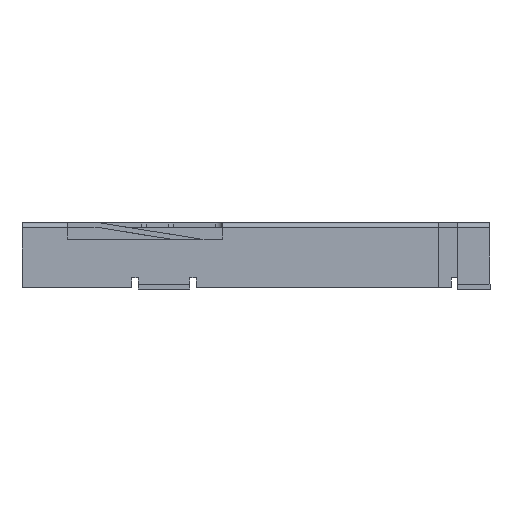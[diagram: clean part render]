
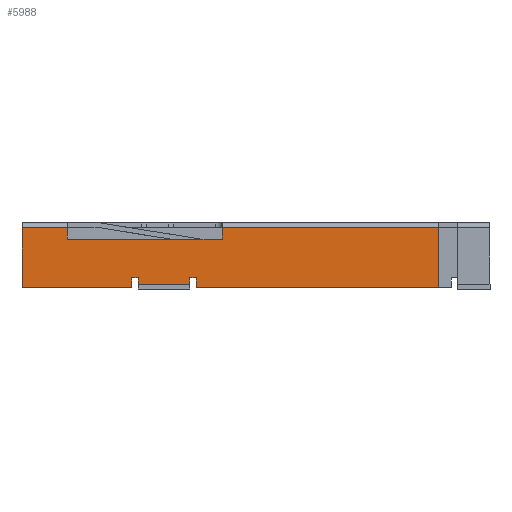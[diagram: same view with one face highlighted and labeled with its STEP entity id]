
A CAD part, left-side view. The second image highlights one B-rep face of the part: STEP entity #5988.
In plain terms, the highlighted planar face has unit normal (-1, 0, 0).
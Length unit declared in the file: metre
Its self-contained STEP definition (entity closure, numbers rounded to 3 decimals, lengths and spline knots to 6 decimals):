
#498=LINE('',#12149,#1098);
#501=LINE('',#12155,#1101);
#537=LINE('',#12282,#1137);
#542=LINE('',#12292,#1142);
#544=LINE('',#12297,#1144);
#548=LINE('',#12306,#1148);
#557=LINE('',#12322,#1157);
#561=LINE('',#12329,#1161);
#562=LINE('',#12331,#1162);
#626=LINE('',#12465,#1226);
#631=LINE('',#12481,#1231);
#650=LINE('',#12514,#1250);
#655=LINE('',#12525,#1255);
#656=LINE('',#12527,#1256);
#657=LINE('',#12528,#1257);
#658=LINE('',#12529,#1258);
#1098=VECTOR('',#8743,1.);
#1101=VECTOR('',#8748,1.);
#1137=VECTOR('',#8860,1.);
#1142=VECTOR('',#8867,1.);
#1144=VECTOR('',#8871,1.);
#1148=VECTOR('',#8877,1.);
#1157=VECTOR('',#8892,1.);
#1161=VECTOR('',#8898,1.);
#1162=VECTOR('',#8901,1.);
#1226=VECTOR('',#9013,1.);
#1231=VECTOR('',#9024,1.);
#1250=VECTOR('',#9053,1.);
#1255=VECTOR('',#9068,1.);
#1256=VECTOR('',#9069,1.);
#1257=VECTOR('',#9070,1.);
#1258=VECTOR('',#9071,1.);
#2783=ORIENTED_EDGE('',*,*,#3647,.F.);
#2784=ORIENTED_EDGE('',*,*,#3832,.T.);
#2785=ORIENTED_EDGE('',*,*,#3833,.T.);
#2786=ORIENTED_EDGE('',*,*,#3826,.T.);
#2787=ORIENTED_EDGE('',*,*,#3834,.F.);
#2788=ORIENTED_EDGE('',*,*,#3714,.T.);
#2789=ORIENTED_EDGE('',*,*,#3709,.T.);
#2790=ORIENTED_EDGE('',*,*,#3733,.T.);
#2791=ORIENTED_EDGE('',*,*,#3734,.T.);
#2792=ORIENTED_EDGE('',*,*,#3729,.T.);
#2793=ORIENTED_EDGE('',*,*,#3716,.T.);
#2794=ORIENTED_EDGE('',*,*,#3720,.T.);
#2795=ORIENTED_EDGE('',*,*,#3835,.F.);
#2796=ORIENTED_EDGE('',*,*,#3807,.T.);
#2797=ORIENTED_EDGE('',*,*,#3800,.T.);
#2798=ORIENTED_EDGE('',*,*,#3650,.F.);
#3647=EDGE_CURVE('',#4264,#4265,#498,.T.);
#3650=EDGE_CURVE('',#4265,#4267,#501,.T.);
#3709=EDGE_CURVE('',#4316,#4315,#537,.T.);
#3714=EDGE_CURVE('',#4318,#4316,#542,.T.);
#3716=EDGE_CURVE('',#4322,#4321,#544,.T.);
#3720=EDGE_CURVE('',#4321,#4325,#548,.T.);
#3729=EDGE_CURVE('',#4330,#4322,#557,.T.);
#3733=EDGE_CURVE('',#4315,#4331,#561,.T.);
#3734=EDGE_CURVE('',#4331,#4330,#562,.T.);
#3800=EDGE_CURVE('',#4374,#4267,#626,.T.);
#3807=EDGE_CURVE('',#4378,#4374,#631,.T.);
#3826=EDGE_CURVE('',#4387,#4386,#650,.T.);
#3832=EDGE_CURVE('',#4264,#4388,#655,.T.);
#3833=EDGE_CURVE('',#4388,#4387,#656,.T.);
#3834=EDGE_CURVE('',#4318,#4386,#657,.T.);
#3835=EDGE_CURVE('',#4378,#4325,#658,.T.);
#4264=VERTEX_POINT('',#12148);
#4265=VERTEX_POINT('',#12150);
#4267=VERTEX_POINT('',#12156);
#4315=VERTEX_POINT('',#12281);
#4316=VERTEX_POINT('',#12283);
#4318=VERTEX_POINT('',#12289);
#4321=VERTEX_POINT('',#12296);
#4322=VERTEX_POINT('',#12298);
#4325=VERTEX_POINT('',#12305);
#4330=VERTEX_POINT('',#12323);
#4331=VERTEX_POINT('',#12328);
#4374=VERTEX_POINT('',#12466);
#4378=VERTEX_POINT('',#12482);
#4386=VERTEX_POINT('',#12513);
#4387=VERTEX_POINT('',#12515);
#4388=VERTEX_POINT('',#12526);
#4882=EDGE_LOOP('',(#2783,#2784,#2785,#2786,#2787,#2788,#2789,#2790,#2791,
#2792,#2793,#2794,#2795,#2796,#2797,#2798));
#5197=FACE_BOUND('',#4882,.T.);
#5396=PLANE('',#8010);
#5988=ADVANCED_FACE('',(#5197),#5396,.F.);
#8010=AXIS2_PLACEMENT_3D('',#12524,#9066,#9067);
#8743=DIRECTION('',(0.,-1.,0.));
#8748=DIRECTION('',(0.,0.,1.));
#8860=DIRECTION('',(0.,-1.,0.));
#8867=DIRECTION('',(0.,0.,1.));
#8871=DIRECTION('',(0.,-1.,0.));
#8877=DIRECTION('',(0.,0.,-1.));
#8892=DIRECTION('',(0.,0.,1.));
#8898=DIRECTION('',(0.,0.,-1.));
#8901=DIRECTION('',(0.,-1.,0.));
#9013=DIRECTION('',(0.,1.,0.));
#9024=DIRECTION('',(0.,0.,1.));
#9053=DIRECTION('',(0.,0.,-1.));
#9066=DIRECTION('',(1.,0.,0.));
#9067=DIRECTION('',(0.,0.,1.));
#9068=DIRECTION('',(0.,0.,1.));
#9069=DIRECTION('',(0.,1.,0.));
#9070=DIRECTION('',(0.,1.,0.));
#9071=DIRECTION('',(0.,1.,0.));
#12148=CARTESIAN_POINT('',(-0.100608,-0.003618,0.01105));
#12149=CARTESIAN_POINT('',(-0.100608,-0.008418,0.01105));
#12150=CARTESIAN_POINT('',(-0.100608,-0.008418,0.01105));
#12155=CARTESIAN_POINT('',(-0.100608,-0.008418,0.01105));
#12156=CARTESIAN_POINT('',(-0.100608,-0.008418,0.011401));
#12281=CARTESIAN_POINT('',(-0.100608,-0.005818,0.00985));
#12282=CARTESIAN_POINT('',(-0.100608,-0.005818,0.00985));
#12283=CARTESIAN_POINT('',(-0.100608,-0.005618,0.00985));
#12289=CARTESIAN_POINT('',(-0.100608,-0.005618,0.00955));
#12292=CARTESIAN_POINT('',(-0.100608,-0.005618,0.0095));
#12296=CARTESIAN_POINT('',(-0.100608,-0.007618,0.00985));
#12297=CARTESIAN_POINT('',(-0.100608,-0.007418,0.00985));
#12298=CARTESIAN_POINT('',(-0.100608,-0.007418,0.00985));
#12305=CARTESIAN_POINT('',(-0.100608,-0.007618,0.00955));
#12306=CARTESIAN_POINT('',(-0.100608,-0.007618,0.0095));
#12322=CARTESIAN_POINT('',(-0.100608,-0.007418,0.0095));
#12323=CARTESIAN_POINT('',(-0.100608,-0.007418,0.00965));
#12328=CARTESIAN_POINT('',(-0.100608,-0.005818,0.00965));
#12329=CARTESIAN_POINT('',(-0.100608,-0.005818,0.0095));
#12331=CARTESIAN_POINT('',(-0.100608,-0.031603,0.00965));
#12465=CARTESIAN_POINT('',(-0.100608,-0.031603,0.011401));
#12466=CARTESIAN_POINT('',(-0.100608,-0.015118,0.011401));
#12481=CARTESIAN_POINT('',(-0.100608,-0.015118,0.0095));
#12482=CARTESIAN_POINT('',(-0.100608,-0.015118,0.00955));
#12513=CARTESIAN_POINT('',(-0.100608,-0.002218,0.00955));
#12514=CARTESIAN_POINT('',(-0.100608,-0.002218,0.0114));
#12515=CARTESIAN_POINT('',(-0.100608,-0.002218,0.011401));
#12524=CARTESIAN_POINT('',(-0.100608,-0.031603,0.0114));
#12525=CARTESIAN_POINT('',(-0.100608,-0.003618,0.01105));
#12526=CARTESIAN_POINT('',(-0.100608,-0.003618,0.011401));
#12527=CARTESIAN_POINT('',(-0.100608,-0.031603,0.011401));
#12528=CARTESIAN_POINT('',(-0.100608,-0.031603,0.00955));
#12529=CARTESIAN_POINT('',(-0.100608,-0.031603,0.00955));
